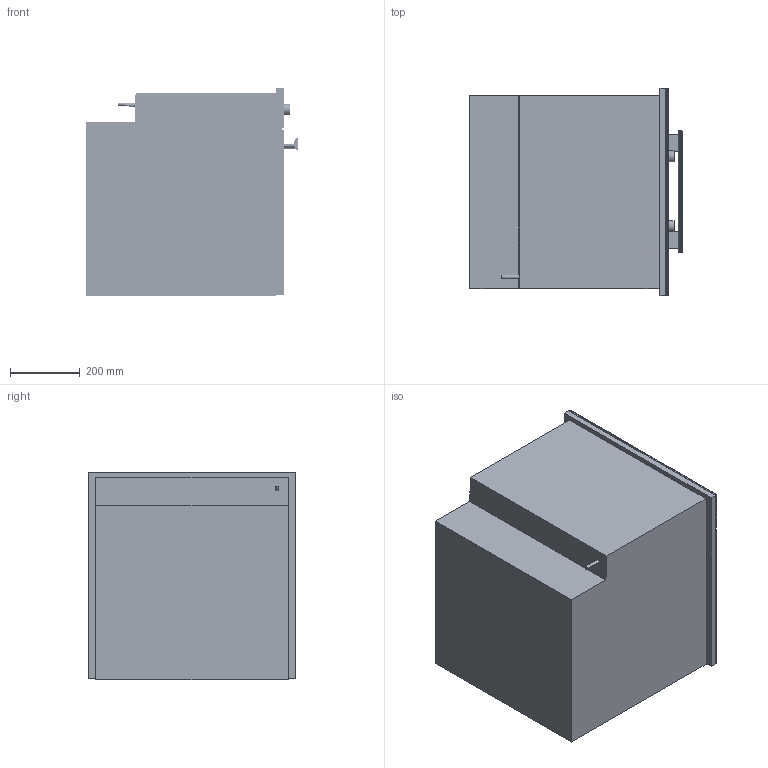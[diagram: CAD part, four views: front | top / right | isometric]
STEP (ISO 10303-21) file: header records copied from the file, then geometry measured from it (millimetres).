
FILE_DESCRIPTION(/* description */ (''),/* implementation_level */ '2;1');
FILE_NAME(/* name */ 'H6260B_CLST',/* time_stamp */ '2013-03-08T17:26:57+01:00',/* author */ (''),/* organization */ (''),/* preprocessor_version */ 'ST-DEVELOPER v10',/* originating_system */ '',/* authorisation */ '');
FILE_SCHEMA (('AUTOMOTIVE_DESIGN_CC2'));
Length unit declared in the file: millimetre
Products named in the file (1): 1
Bounding box: 609.48 x 594.95 x 596.08 mm (x, y, z)
Volume: 102703059.1 mm3; surface area: 4255975.3 mm2
Topology: 46 solids, 47 shells, 235 faces, 392 edges, 248 vertices
Faces by surface type: bspline 235
Entity records: 87648 total; most frequent: CARTESIAN_POINT 84647, ORIENTED_EDGE 772, EDGE_CURVE 388, VERTEX_POINT 248, EDGE_LOOP 239, ADVANCED_FACE 235, FACE_OUTER_BOUND 235, B_SPLINE_CURVE_WITH_KNOTS 225
